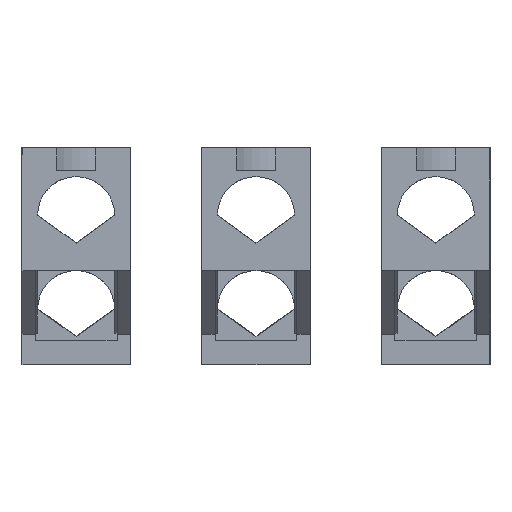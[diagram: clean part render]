
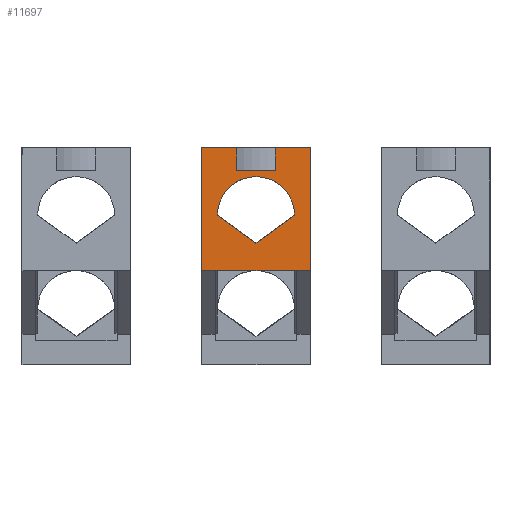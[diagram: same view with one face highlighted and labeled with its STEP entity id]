
A CAD part, front view. The second image highlights one B-rep face of the part: STEP entity #11697.
In plain terms, the highlighted planar face has unit normal (0, -1, 0).
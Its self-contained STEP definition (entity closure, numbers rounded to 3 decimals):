
#78 = CARTESIAN_POINT ( 'NONE',  ( -8., -109.4, 52.44 ) ) ;
#105 = VECTOR ( 'NONE', #10299, 1000. ) ;
#156 = CARTESIAN_POINT ( 'NONE',  ( -8., -109.4, 52.44 ) ) ;
#502 = CARTESIAN_POINT ( 'NONE',  ( 8., -109.4, 52.44 ) ) ;
#585 = EDGE_CURVE ( 'NONE', #9374, #7090, #7887, .T. ) ;
#619 = AXIS2_PLACEMENT_3D ( 'NONE', #7432, #1112, #3768 ) ;
#726 = CARTESIAN_POINT ( 'NONE',  ( 11.25, -109.4, 66.44 ) ) ;
#828 = CARTESIAN_POINT ( 'NONE',  ( -4., -109.4, 61.74 ) ) ;
#1112 = DIRECTION ( 'NONE',  ( 0., 1., 0. ) ) ;
#1246 = CARTESIAN_POINT ( 'NONE',  ( -11.25, -109.4, 40.94 ) ) ;
#1256 = CARTESIAN_POINT ( 'NONE',  ( 0., -109.4, 46.64 ) ) ;
#1433 = CARTESIAN_POINT ( 'NONE',  ( 11.25, -109.4, 66.44 ) ) ;
#1657 = VECTOR ( 'NONE', #9044, 1000. ) ;
#1690 = EDGE_LOOP ( 'NONE', ( #2564, #3153, #4344, #4223, #7692, #3930, #5436, #3991 ) ) ;
#1991 = VERTEX_POINT ( 'NONE', #2837 ) ;
#2140 = ORIENTED_EDGE ( 'NONE', *, *, #9894, .T. ) ;
#2382 = VECTOR ( 'NONE', #11677, 1000. ) ;
#2414 = CARTESIAN_POINT ( 'NONE',  ( -11.25, -109.4, 66.44 ) ) ;
#2564 = ORIENTED_EDGE ( 'NONE', *, *, #10208, .T. ) ;
#2596 = LINE ( 'NONE', #4988, #3995 ) ;
#2769 = LINE ( 'NONE', #4925, #105 ) ;
#2808 = VECTOR ( 'NONE', #6453, 1000. ) ;
#2837 = CARTESIAN_POINT ( 'NONE',  ( 4., -109.4, 66.44 ) ) ;
#2878 = LINE ( 'NONE', #828, #3006 ) ;
#2947 = EDGE_CURVE ( 'NONE', #5404, #9085, #5453, .T. ) ;
#3006 = VECTOR ( 'NONE', #8938, 1000. ) ;
#3030 = VECTOR ( 'NONE', #10004, 1000. ) ;
#3075 = EDGE_CURVE ( 'NONE', #9619, #8544, #2769, .T. ) ;
#3153 = ORIENTED_EDGE ( 'NONE', *, *, #3947, .T. ) ;
#3236 = CARTESIAN_POINT ( 'NONE',  ( -4., -109.4, 66.44 ) ) ;
#3372 = VERTEX_POINT ( 'NONE', #11474 ) ;
#3469 = DIRECTION ( 'NONE',  ( 1., 0., 0. ) ) ;
#3607 = VECTOR ( 'NONE', #7008, 1000. ) ;
#3768 = DIRECTION ( 'NONE',  ( -1., 0., 0. ) ) ;
#3880 = VERTEX_POINT ( 'NONE', #6204 ) ;
#3929 = CARTESIAN_POINT ( 'NONE',  ( 11.25, -109.4, 40.94 ) ) ;
#3930 = ORIENTED_EDGE ( 'NONE', *, *, #9797, .T. ) ;
#3947 = EDGE_CURVE ( 'NONE', #3880, #7090, #2596, .T. ) ;
#3967 = VERTEX_POINT ( 'NONE', #1433 ) ;
#3991 = ORIENTED_EDGE ( 'NONE', *, *, #11020, .F. ) ;
#3995 = VECTOR ( 'NONE', #9609, 1000. ) ;
#4022 = CARTESIAN_POINT ( 'NONE',  ( 0., -109.4, 52.44 ) ) ;
#4030 = LINE ( 'NONE', #5421, #1657 ) ;
#4223 = ORIENTED_EDGE ( 'NONE', *, *, #7754, .F. ) ;
#4344 = ORIENTED_EDGE ( 'NONE', *, *, #585, .F. ) ;
#4727 = CARTESIAN_POINT ( 'NONE',  ( -11.25, -109.4, 66.44 ) ) ;
#4925 = CARTESIAN_POINT ( 'NONE',  ( -11.25, -109.4, 40.94 ) ) ;
#4988 = CARTESIAN_POINT ( 'NONE',  ( -4., -109.4, 61.74 ) ) ;
#5339 = DIRECTION ( 'NONE',  ( -0.81, 0., 0.587 ) ) ;
#5404 = VERTEX_POINT ( 'NONE', #502 ) ;
#5421 = CARTESIAN_POINT ( 'NONE',  ( 4., -109.4, 61.74 ) ) ;
#5436 = ORIENTED_EDGE ( 'NONE', *, *, #11619, .F. ) ;
#5453 = LINE ( 'NONE', #10904, #3030 ) ;
#5484 = CARTESIAN_POINT ( 'NONE',  ( -11.25, -109.4, 66.44 ) ) ;
#5997 = LINE ( 'NONE', #726, #3607 ) ;
#6204 = CARTESIAN_POINT ( 'NONE',  ( -4., -109.4, 61.74 ) ) ;
#6453 = DIRECTION ( 'NONE',  ( 1., 0., 0. ) ) ;
#6691 = DIRECTION ( 'NONE',  ( -1., 0., 0. ) ) ;
#6734 = DIRECTION ( 'NONE',  ( 0., 1., 0. ) ) ;
#6909 = EDGE_CURVE ( 'NONE', #9961, #5404, #11574, .T. ) ;
#7008 = DIRECTION ( 'NONE',  ( 0., 0., 1. ) ) ;
#7090 = VERTEX_POINT ( 'NONE', #3236 ) ;
#7432 = CARTESIAN_POINT ( 'NONE',  ( -11.25, -109.4, 66.44 ) ) ;
#7523 = ORIENTED_EDGE ( 'NONE', *, *, #6909, .T. ) ;
#7554 = FACE_OUTER_BOUND ( 'NONE', #1690, .T. ) ;
#7692 = ORIENTED_EDGE ( 'NONE', *, *, #3075, .T. ) ;
#7754 = EDGE_CURVE ( 'NONE', #9619, #9374, #11401, .T. ) ;
#7887 = LINE ( 'NONE', #4727, #2808 ) ;
#8256 = PLANE ( 'NONE',  #619 ) ;
#8271 = VECTOR ( 'NONE', #5339, 1000. ) ;
#8544 = VERTEX_POINT ( 'NONE', #3929 ) ;
#8938 = DIRECTION ( 'NONE',  ( -1., 0., 0. ) ) ;
#9044 = DIRECTION ( 'NONE',  ( 0., 0., 1. ) ) ;
#9085 = VERTEX_POINT ( 'NONE', #1256 ) ;
#9374 = VERTEX_POINT ( 'NONE', #5484 ) ;
#9609 = DIRECTION ( 'NONE',  ( 0., 0., 1. ) ) ;
#9619 = VERTEX_POINT ( 'NONE', #1246 ) ;
#9797 = EDGE_CURVE ( 'NONE', #8544, #3967, #5997, .T. ) ;
#9894 = EDGE_CURVE ( 'NONE', #9085, #9961, #10956, .T. ) ;
#9961 = VERTEX_POINT ( 'NONE', #156 ) ;
#9964 = FACE_BOUND ( 'NONE', #10045, .T. ) ;
#10004 = DIRECTION ( 'NONE',  ( -0.81, 0., -0.587 ) ) ;
#10045 = EDGE_LOOP ( 'NONE', ( #2140, #7523, #10725 ) ) ;
#10208 = EDGE_CURVE ( 'NONE', #3372, #3880, #2878, .T. ) ;
#10286 = AXIS2_PLACEMENT_3D ( 'NONE', #4022, #6734, #6691 ) ;
#10299 = DIRECTION ( 'NONE',  ( 1., 0., 0. ) ) ;
#10725 = ORIENTED_EDGE ( 'NONE', *, *, #2947, .T. ) ;
#10860 = CARTESIAN_POINT ( 'NONE',  ( -11.25, -109.4, 66.44 ) ) ;
#10904 = CARTESIAN_POINT ( 'NONE',  ( 8., -109.4, 52.44 ) ) ;
#10956 = LINE ( 'NONE', #78, #8271 ) ;
#11020 = EDGE_CURVE ( 'NONE', #3372, #1991, #4030, .T. ) ;
#11089 = LINE ( 'NONE', #10860, #11220 ) ;
#11220 = VECTOR ( 'NONE', #3469, 1000. ) ;
#11401 = LINE ( 'NONE', #2414, #2382 ) ;
#11474 = CARTESIAN_POINT ( 'NONE',  ( 4., -109.4, 61.74 ) ) ;
#11574 = CIRCLE ( 'NONE', #10286, 8. ) ;
#11619 = EDGE_CURVE ( 'NONE', #1991, #3967, #11089, .T. ) ;
#11677 = DIRECTION ( 'NONE',  ( 0., 0., 1. ) ) ;
#11697 = ADVANCED_FACE ( 'NONE', ( #9964, #7554 ), #8256, .F. ) ;
